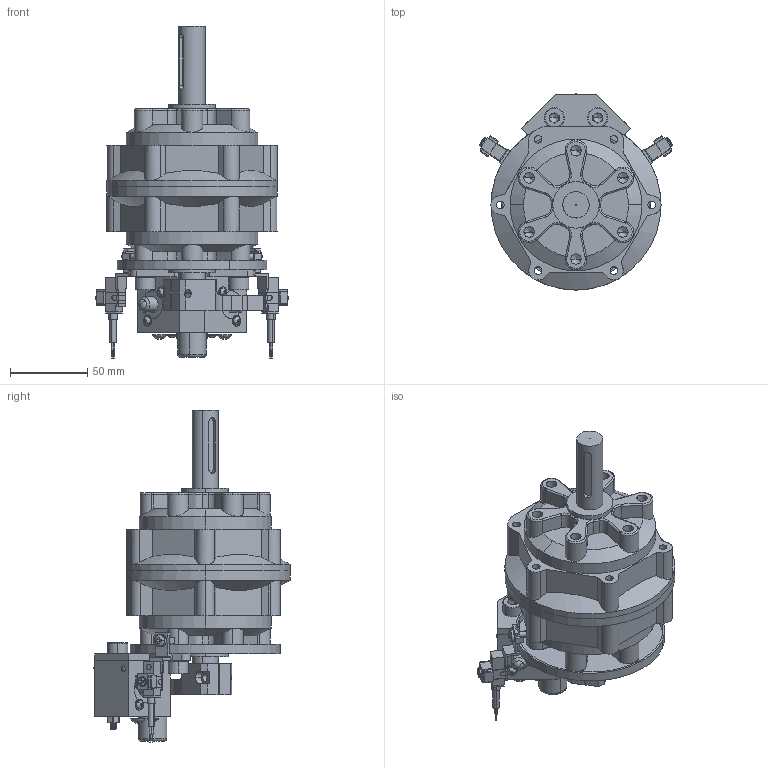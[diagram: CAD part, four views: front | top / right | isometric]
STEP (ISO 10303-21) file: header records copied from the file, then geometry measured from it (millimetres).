
FILE_DESCRIPTION (( 'STEP AP203' ), '1' );
FILE_NAME ('PRN150#-#-#-#-FC.STEP', '2016-01-14T16:43:22', ( '' ), ( '' ), 'SwSTEP 2.0', 'SolidWorks 2014', '' );
FILE_SCHEMA (( 'CONFIG_CONTROL_DESIGN' ));
Length unit declared in the file: millimetre
Products named in the file (24): 零件1-150; 150-活動珠身體; mark-PRN150; 150-PRO-CR2; 150-零件4; M4螺絲; PRN150 (3); PRN150 (1); 150-螺帽; 150-PRN50-CR; FC; 150-M8螺絲墊片; 板金2; 150-圓頂-2; PRO-CR1-150; 150-螺絲; PRN150 (2); 1; 150-邊底座; 150-M8螺絲; 側鐵片; PRN150#-#-#-#-FC; 150-六孔螺帽2; 感應開關-板金2
Assembly tree (39 placements, depth 3):
  PRN150#-#-#-#-FC
    PRN150 (2)
    PRN150 (1)
    PRN150 (3)
    mark-PRN150
    150-PRN50-CR
      PRO-CR1-150
      150-PRO-CR2
      150-零件4
      150-螺絲  x2
      150-M8螺絲  x4
      150-活動珠身體  x2
      150-邊底座  x2
      150-圓頂-2  x3
      150-M8螺絲墊片  x2
      150-六孔螺帽2  x6
      150-螺帽  x2
    FC
    零件1-150
    感應開關-板金2  x2
      1
      側鐵片
      M4螺絲
      板金2
Bounding box: 124.41 x 127 x 214.7 mm (x, y, z)
Volume: 773171.3 mm3; surface area: 156929.4 mm2
Topology: 54 solids, 54 shells, 1381 faces, 3403 edges, 2139 vertices
Faces by surface type: plane 645, cylinder 465, torus 111, cone 98, sphere 42, bspline 20
Entity records: 34156 total; most frequent: CARTESIAN_POINT 8273, DIRECTION 5013, ORIENTED_EDGE 4638, EDGE_CURVE 2319, AXIS2_PLACEMENT_3D 1909, VERTEX_POINT 1485, LINE 1195, VECTOR 1195
